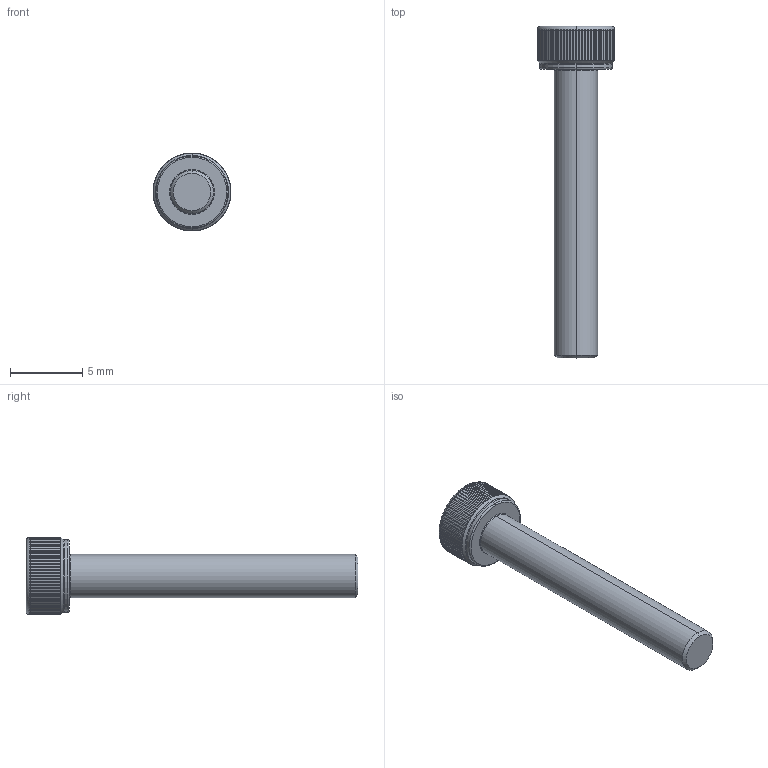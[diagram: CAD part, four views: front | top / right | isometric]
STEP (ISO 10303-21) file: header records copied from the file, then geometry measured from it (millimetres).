
FILE_DESCRIPTION (( 'STEP AP203' ), '1' );
FILE_NAME ('LGDT-304-M3x20.STEP', '2026-08-08T09:38:21', ( '' ), ( '' ), 'SwSTEP 2.0', 'SolidWorks 2020', '' );
FILE_SCHEMA (( 'CONFIG_CONTROL_DESIGN' ));
Length unit declared in the file: millimetre
Products named in the file (1): LGDT-304-M3x20
Bounding box: 5.4 x 23 x 5.4 mm (x, y, z)
Volume: 199.1 mm3; surface area: 292.2 mm2
Topology: 1 solids, 1 shells, 204 faces, 576 edges, 376 vertices
Faces by surface type: cylinder 175, cone 11, plane 10, torus 8
Entity records: 10019 total; most frequent: CARTESIAN_POINT 4860, ORIENTED_EDGE 1152, DIRECTION 988, EDGE_CURVE 576, AXIS2_PLACEMENT_3D 398, VERTEX_POINT 376, EDGE_LOOP 206, FACE_OUTER_BOUND 204
